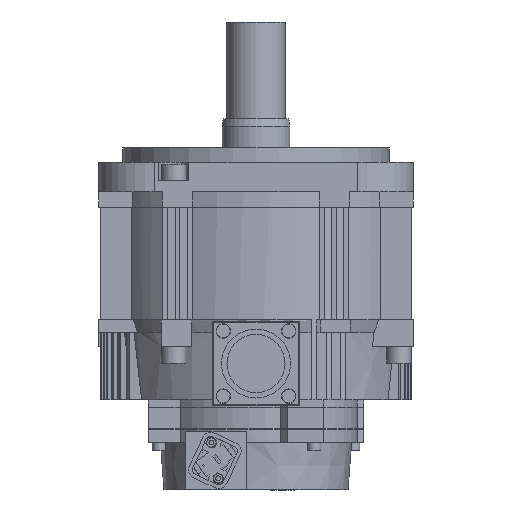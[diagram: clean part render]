
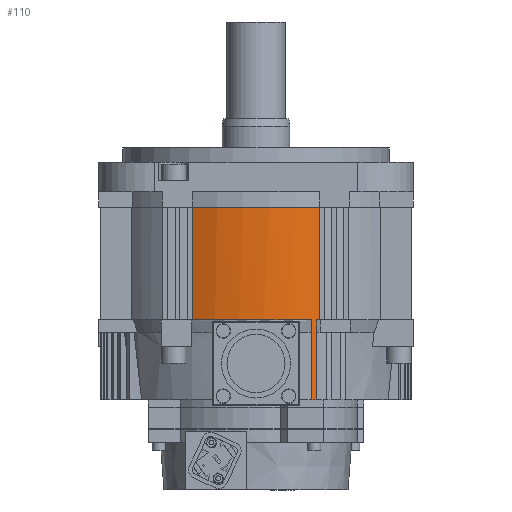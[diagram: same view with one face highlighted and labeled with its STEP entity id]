
A CAD part, front view. The second image highlights one B-rep face of the part: STEP entity #110.
In plain terms, the highlighted cylindrical face has radius 64 mm (diameter 128 mm), a partial arc.
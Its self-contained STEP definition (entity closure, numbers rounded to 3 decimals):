
#110 = ADVANCED_FACE ( 'NONE', ( #10993 ), #12215, .T. ) ;
#174 = VERTEX_POINT ( 'NONE', #24477 ) ;
#1507 = VERTEX_POINT ( 'NONE', #25615 ) ;
#1584 = CARTESIAN_POINT ( 'NONE',  ( 0., 0., -18.6 ) ) ;
#1708 = CIRCLE ( 'NONE', #10022, 64. ) ;
#1948 = VERTEX_POINT ( 'NONE', #3363 ) ;
#3199 = DIRECTION ( 'NONE',  ( 1., 0., 0. ) ) ;
#3363 = CARTESIAN_POINT ( 'NONE',  ( 26.3, -58.346, -65. ) ) ;
#3667 = ORIENTED_EDGE ( 'NONE', *, *, #16269, .F. ) ;
#3761 = DIRECTION ( 'NONE',  ( 0., 0., -1. ) ) ;
#4018 = LINE ( 'NONE', #14288, #18235 ) ;
#4059 = AXIS2_PLACEMENT_3D ( 'NONE', #16357, #6581, #8594 ) ;
#4416 = CARTESIAN_POINT ( 'NONE',  ( 23., -59.724, -98. ) ) ;
#4623 = DIRECTION ( 'NONE',  ( 0., 0., 1. ) ) ;
#5179 = VERTEX_POINT ( 'NONE', #11836 ) ;
#6270 = CIRCLE ( 'NONE', #9744, 64. ) ;
#6305 = LINE ( 'NONE', #14630, #7534 ) ;
#6581 = DIRECTION ( 'NONE',  ( 0., 0., -1. ) ) ;
#7534 = VECTOR ( 'NONE', #8877, 1000. ) ;
#8350 = CARTESIAN_POINT ( 'NONE',  ( 26.3, -58.346, -246.019 ) ) ;
#8594 = DIRECTION ( 'NONE',  ( 1., 0., 0. ) ) ;
#8618 = ORIENTED_EDGE ( 'NONE', *, *, #25666, .T. ) ;
#8877 = DIRECTION ( 'NONE',  ( 0., 0., 1. ) ) ;
#9527 = EDGE_CURVE ( 'NONE', #5179, #23849, #1708, .T. ) ;
#9555 = CARTESIAN_POINT ( 'NONE',  ( 0., 0., -98. ) ) ;
#9744 = AXIS2_PLACEMENT_3D ( 'NONE', #22813, #20573, #14910 ) ;
#10022 = AXIS2_PLACEMENT_3D ( 'NONE', #1584, #25113, #11393 ) ;
#10052 = VECTOR ( 'NONE', #10265, 1000. ) ;
#10181 = CARTESIAN_POINT ( 'NONE',  ( -26.4, -58.301, -246.019 ) ) ;
#10265 = DIRECTION ( 'NONE',  ( 0., 0., -1. ) ) ;
#10993 = FACE_OUTER_BOUND ( 'NONE', #18376, .T. ) ;
#11200 = CIRCLE ( 'NONE', #13842, 64. ) ;
#11393 = DIRECTION ( 'NONE',  ( 0., 1., 0. ) ) ;
#11501 = CARTESIAN_POINT ( 'NONE',  ( 26.3, -58.346, -18.6 ) ) ;
#11695 = EDGE_CURVE ( 'NONE', #24560, #174, #6305, .T. ) ;
#11836 = CARTESIAN_POINT ( 'NONE',  ( -26.4, -58.301, -18.6 ) ) ;
#11893 = ORIENTED_EDGE ( 'NONE', *, *, #21024, .F. ) ;
#12052 = VERTEX_POINT ( 'NONE', #19701 ) ;
#12215 = CYLINDRICAL_SURFACE ( 'NONE', #4059, 64. ) ;
#13071 = CIRCLE ( 'NONE', #24988, 64. ) ;
#13842 = AXIS2_PLACEMENT_3D ( 'NONE', #9555, #3761, #19527 ) ;
#14288 = CARTESIAN_POINT ( 'NONE',  ( 25., -58.915, 58. ) ) ;
#14630 = CARTESIAN_POINT ( 'NONE',  ( 23., -59.724, 58. ) ) ;
#14862 = DIRECTION ( 'NONE',  ( 0., 0., -1. ) ) ;
#14910 = DIRECTION ( 'NONE',  ( 1., 0., 0. ) ) ;
#15056 = VECTOR ( 'NONE', #4623, 1000. ) ;
#16269 = EDGE_CURVE ( 'NONE', #12052, #1507, #4018, .T. ) ;
#16357 = CARTESIAN_POINT ( 'NONE',  ( 0., 0., 58. ) ) ;
#16463 = DIRECTION ( 'NONE',  ( 0., 0., -1. ) ) ;
#17155 = LINE ( 'NONE', #10181, #10052 ) ;
#18235 = VECTOR ( 'NONE', #16463, 1000. ) ;
#18376 = EDGE_LOOP ( 'NONE', ( #18728, #8618, #21504, #24613, #21292, #3667, #11893, #19883 ) ) ;
#18728 = ORIENTED_EDGE ( 'NONE', *, *, #9527, .F. ) ;
#19015 = CARTESIAN_POINT ( 'NONE',  ( -26.4, -58.301, -65. ) ) ;
#19527 = DIRECTION ( 'NONE',  ( -1., 0., 0. ) ) ;
#19701 = CARTESIAN_POINT ( 'NONE',  ( 25., -58.915, -65. ) ) ;
#19883 = ORIENTED_EDGE ( 'NONE', *, *, #24127, .T. ) ;
#19968 = EDGE_CURVE ( 'NONE', #174, #20540, #6270, .T. ) ;
#20540 = VERTEX_POINT ( 'NONE', #19015 ) ;
#20573 = DIRECTION ( 'NONE',  ( 0., 0., -1. ) ) ;
#21024 = EDGE_CURVE ( 'NONE', #1948, #12052, #13071, .T. ) ;
#21189 = LINE ( 'NONE', #8350, #15056 ) ;
#21292 = ORIENTED_EDGE ( 'NONE', *, *, #21704, .F. ) ;
#21504 = ORIENTED_EDGE ( 'NONE', *, *, #19968, .F. ) ;
#21704 = EDGE_CURVE ( 'NONE', #1507, #24560, #11200, .T. ) ;
#22813 = CARTESIAN_POINT ( 'NONE',  ( 0., 0., -65. ) ) ;
#23849 = VERTEX_POINT ( 'NONE', #11501 ) ;
#24127 = EDGE_CURVE ( 'NONE', #1948, #23849, #21189, .T. ) ;
#24477 = CARTESIAN_POINT ( 'NONE',  ( 23., -59.724, -65. ) ) ;
#24560 = VERTEX_POINT ( 'NONE', #4416 ) ;
#24613 = ORIENTED_EDGE ( 'NONE', *, *, #11695, .F. ) ;
#24709 = CARTESIAN_POINT ( 'NONE',  ( 0., 0., -65. ) ) ;
#24988 = AXIS2_PLACEMENT_3D ( 'NONE', #24709, #14862, #3199 ) ;
#25113 = DIRECTION ( 'NONE',  ( 0., 0., 1. ) ) ;
#25615 = CARTESIAN_POINT ( 'NONE',  ( 25., -58.915, -98. ) ) ;
#25666 = EDGE_CURVE ( 'NONE', #5179, #20540, #17155, .T. ) ;
